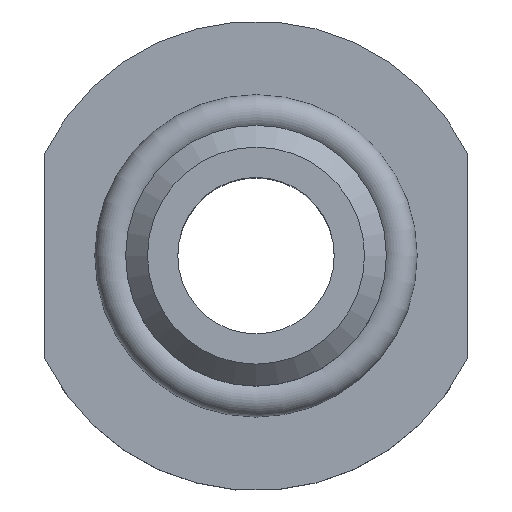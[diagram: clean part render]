
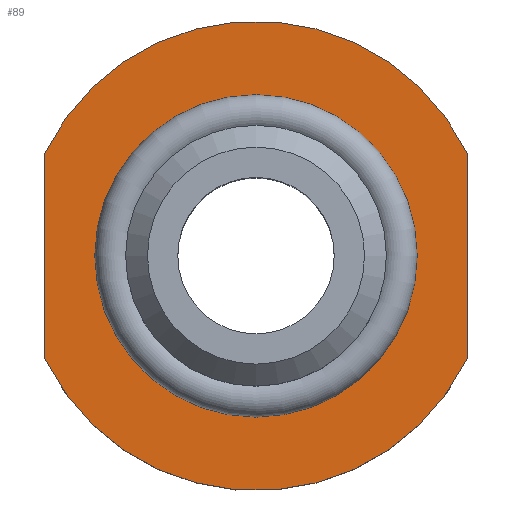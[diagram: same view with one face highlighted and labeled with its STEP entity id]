
A CAD part, top view. The second image highlights one B-rep face of the part: STEP entity #89.
In plain terms, the highlighted planar face has unit normal (0, 0, 1).
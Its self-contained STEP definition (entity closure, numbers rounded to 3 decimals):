
#89=ADVANCED_FACE('',(#175,#176),#177,.T.);
#175=FACE_BOUND('',#257,.T.);
#176=FACE_OUTER_BOUND('',#258,.T.);
#177=PLANE('',#259);
#257=EDGE_LOOP('',(#353));
#258=EDGE_LOOP('',(#354,#355,#356,#357));
#259=AXIS2_PLACEMENT_3D('',#358,#359,#360);
#353=ORIENTED_EDGE('',*,*,#418,.F.);
#354=ORIENTED_EDGE('',*,*,#439,.T.);
#355=ORIENTED_EDGE('',*,*,#428,.T.);
#356=ORIENTED_EDGE('',*,*,#440,.T.);
#357=ORIENTED_EDGE('',*,*,#423,.T.);
#358=CARTESIAN_POINT('',(0.0,0.0,14.0));
#359=DIRECTION('',(0.0,0.0,1.0));
#360=DIRECTION('',(1.0,0.0,0.0));
#418=EDGE_CURVE('',#465,#465,#466,.T.);
#423=EDGE_CURVE('',#468,#473,#475,.T.);
#428=EDGE_CURVE('',#477,#482,#484,.T.);
#439=EDGE_CURVE('',#473,#477,#499,.T.);
#440=EDGE_CURVE('',#482,#468,#500,.T.);
#465=VERTEX_POINT('',#529);
#466=CIRCLE('',#530,10.3);
#468=VERTEX_POINT('',#532);
#473=VERTEX_POINT('',#539);
#475=LINE('',#542,#543);
#477=VERTEX_POINT('',#545);
#482=VERTEX_POINT('',#552);
#484=LINE('',#555,#556);
#499=CIRCLE('',#571,15.0);
#500=CIRCLE('',#572,15.0);
#529=CARTESIAN_POINT('',(10.3,0.,14.0));
#530=AXIS2_PLACEMENT_3D('',#602,#603,#604);
#532=CARTESIAN_POINT('',(13.5,-6.538,14.0));
#539=CARTESIAN_POINT('',(13.5,6.538,14.0));
#542=CARTESIAN_POINT('',(13.5,-10.626,14.0));
#543=VECTOR('',#608,1.0);
#545=CARTESIAN_POINT('',(-13.5,6.539,14.0));
#552=CARTESIAN_POINT('',(-13.5,-6.539,14.0));
#555=CARTESIAN_POINT('',(-13.5,12.635,14.0));
#556=VECTOR('',#612,1.0);
#571=AXIS2_PLACEMENT_3D('',#625,#626,#627);
#572=AXIS2_PLACEMENT_3D('',#628,#629,#630);
#602=CARTESIAN_POINT('',(0.0,0.,14.0));
#603=DIRECTION('',(0.0,0.0,1.0));
#604=DIRECTION('',(1.0,0.0,0.0));
#608=DIRECTION('',(0.0,1.0,0.0));
#612=DIRECTION('',(0.0,-1.0,0.0));
#625=CARTESIAN_POINT('',(0.0,0.0,14.0));
#626=DIRECTION('',(0.0,0.0,1.0));
#627=DIRECTION('',(1.0,0.0,0.0));
#628=CARTESIAN_POINT('',(0.0,0.0,14.0));
#629=DIRECTION('',(0.0,0.0,1.0));
#630=DIRECTION('',(1.0,0.0,0.0));
